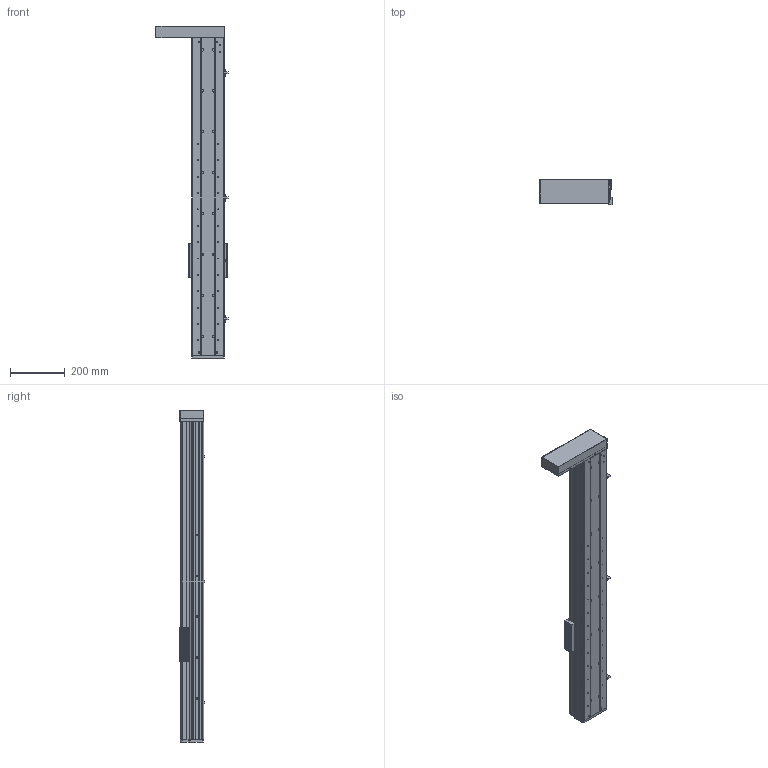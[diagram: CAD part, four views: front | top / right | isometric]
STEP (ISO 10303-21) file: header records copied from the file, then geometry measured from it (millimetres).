
FILE_DESCRIPTION (( 'STEP AP214' ), '1' );
FILE_NAME ('CF120B-C-950-FWL.STEP', '2020-01-15T08:54:48', ( '微软用户' ), ( '微软中国' ), 'SwSTEP 2.0', 'SolidWorks 2016', '' );
FILE_SCHEMA (( 'AUTOMOTIVE_DESIGN' ));
Length unit declared in the file: millimetre
Products named in the file (14): 嫖萇羲壽; 75-86-95癹弇羲壽覜茼え; 120B酘殏殏萇儂啣; CF120-2嘐隅釱 - 萵掛; 殏俔肮祭謫欶; CF120-2耜啣; CF120-2盓厥釱; CF120B裔啣-950; CF120-2-2賑雄啣; CF120-2-1賑雄輸; EGR15絳寢-950; EGH-15-CABZnew; CF120B臏倰第-950; CF120B-C-950-FWL
Assembly tree (19 placements, depth 2):
  CF120B-C-950-FWL
    CF120B臏倰第-950
    EGH-15-CABZnew  x4
    EGR15絳寢-950  x2
    CF120-2-1賑雄輸
    CF120-2-2賑雄啣
    CF120B裔啣-950
    CF120-2盓厥釱
    CF120-2耜啣
    殏俔肮祭謫欶
    CF120-2嘐隅釱 - 萵掛
    120B酘殏殏萇儂啣
    75-86-95癹弇羲壽覜茼え
    嫖萇羲壽  x3
Bounding box: 264.6 x 94.1 x 1218 mm (x, y, z)
Volume: 4297352.6 mm3; surface area: 1774294 mm2
Topology: 15 solids, 67 shells, 7367 faces, 27921 edges, 19200 vertices
Faces by surface type: plane 3554, bspline 2348, cylinder 1093, cone 148, torus 128, sphere 96
Entity records: 134017 total; most frequent: CARTESIAN_POINT 42823, ORIENTED_EDGE 15750, DIRECTION 12590, EDGE_CURVE 8999, VERTEX_POINT 6157, VECTOR 5178, LINE 5178, AXIS2_PLACEMENT_3D 3706
